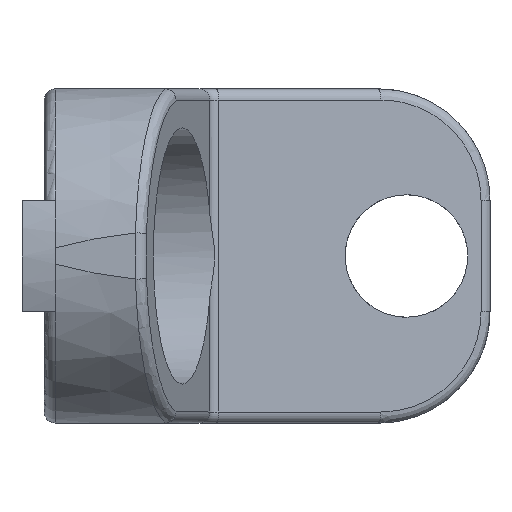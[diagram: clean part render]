
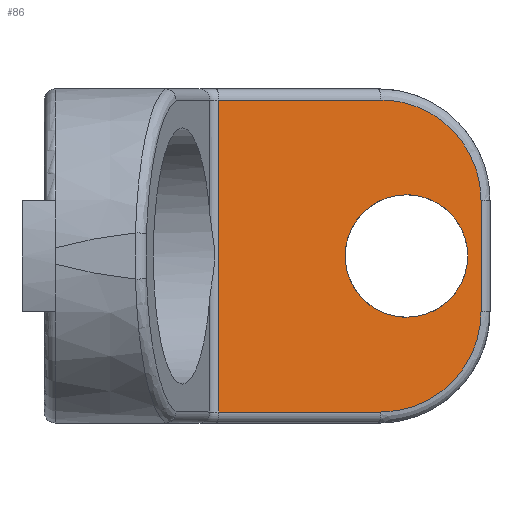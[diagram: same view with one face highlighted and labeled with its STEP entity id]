
A CAD part, left-side view. The second image highlights one B-rep face of the part: STEP entity #86.
In plain terms, the highlighted planar face has unit normal (-0.981, -0.196, 0).
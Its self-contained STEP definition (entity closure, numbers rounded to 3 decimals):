
#86 = ADVANCED_FACE ( 'NONE', ( #1760, #1009 ), #493, .F. ) ;
#102 = VECTOR ( 'NONE', #308, 1000. ) ;
#228 =( BOUNDED_CURVE ( )  B_SPLINE_CURVE ( 3, ( #2942, #1781, #367, #2006 ),
 .UNSPECIFIED., .F., .F. ) 
 B_SPLINE_CURVE_WITH_KNOTS ( ( 4, 4 ),
 ( 0., 3.142 ),
 .UNSPECIFIED. ) 
 CURVE ( )  GEOMETRIC_REPRESENTATION_ITEM ( )  RATIONAL_B_SPLINE_CURVE ( ( 1., 0.333, 0.333, 1. ) ) 
 REPRESENTATION_ITEM ( '' )  );
#248 = CARTESIAN_POINT ( 'NONE',  ( 26.627, -15.636, 0. ) ) ;
#254 = DIRECTION ( 'NONE',  ( -0.196, 0.981, 0. ) ) ;
#308 = DIRECTION ( 'NONE',  ( 0.196, -0.981, 0. ) ) ;
#356 = CARTESIAN_POINT ( 'NONE',  ( 31.5, -40., 29. ) ) ;
#367 = CARTESIAN_POINT ( 'NONE',  ( 28.9, -27., 4. ) ) ;
#394 = ORIENTED_EDGE ( 'NONE', *, *, #3014, .T. ) ;
#404 = VECTOR ( 'NONE', #2801, 1000. ) ;
#405 = VERTEX_POINT ( 'NONE', #580 ) ;
#429 = CARTESIAN_POINT ( 'NONE',  ( 26.627, -15.636, 29. ) ) ;
#461 = CARTESIAN_POINT ( 'NONE',  ( 31.339, -39.196, 20. ) ) ;
#492 = CARTESIAN_POINT ( 'NONE',  ( 28.9, -27., 15. ) ) ;
#493 = PLANE ( 'NONE',  #2682 ) ;
#580 = CARTESIAN_POINT ( 'NONE',  ( 31.1, -38., 15. ) ) ;
#587 = DIRECTION ( 'NONE',  ( -0.196, 0.981, 0. ) ) ;
#680 = CARTESIAN_POINT ( 'NONE',  ( 31.339, -39.196, 25.272 ) ) ;
#737 = CARTESIAN_POINT ( 'NONE',  ( 31.339, -39.196, 10. ) ) ;
#770 = EDGE_CURVE ( 'NONE', #1995, #405, #2556, .T. ) ;
#785 = VECTOR ( 'NONE', #1022, 1000. ) ;
#844 = CARTESIAN_POINT ( 'NONE',  ( 26.627, -15.636, 1. ) ) ;
#873 = EDGE_CURVE ( 'NONE', #1883, #2778, #1004, .T. ) ;
#1004 = LINE ( 'NONE', #2195, #785 ) ;
#1009 = FACE_BOUND ( 'NONE', #2863, .T. ) ;
#1022 = DIRECTION ( 'NONE',  ( 0., 0., 1. ) ) ;
#1062 = EDGE_LOOP ( 'NONE', ( #1979, #2875, #1271, #2297, #3023, #2715 ) ) ;
#1185 = CARTESIAN_POINT ( 'NONE',  ( 30.594, -35.468, 29. ) ) ;
#1271 = ORIENTED_EDGE ( 'NONE', *, *, #1335, .T. ) ;
#1335 = EDGE_CURVE ( 'NONE', #1864, #2977, #1869, .T. ) ;
#1425 = EDGE_CURVE ( 'NONE', #2778, #2692, #1917, .T. ) ;
#1480 = EDGE_CURVE ( 'NONE', #2720, #1883, #1638, .T. ) ;
#1538 = LINE ( 'NONE', #2891, #102 ) ;
#1623 = EDGE_CURVE ( 'NONE', #2977, #2720, #1538, .T. ) ;
#1638 =( BOUNDED_CURVE ( )  B_SPLINE_CURVE ( 3, ( #1664, #2137, #2160, #737 ),
 .UNSPECIFIED., .F., .T. ) 
 B_SPLINE_CURVE_WITH_KNOTS ( ( 4, 4 ),
 ( 1.571, 3.142 ),
 .UNSPECIFIED. ) 
 CURVE ( )  GEOMETRIC_REPRESENTATION_ITEM ( )  RATIONAL_B_SPLINE_CURVE ( ( 1., 0.805, 0.805, 1. ) ) 
 REPRESENTATION_ITEM ( '' )  );
#1664 = CARTESIAN_POINT ( 'NONE',  ( 29.539, -30.196, 1. ) ) ;
#1700 = CARTESIAN_POINT ( 'NONE',  ( 31.5, -40., 30. ) ) ;
#1727 = CARTESIAN_POINT ( 'NONE',  ( 31.339, -39.196, 20. ) ) ;
#1759 = CARTESIAN_POINT ( 'NONE',  ( 29.539, -30.196, 1. ) ) ;
#1760 = FACE_OUTER_BOUND ( 'NONE', #1062, .T. ) ;
#1773 = ORIENTED_EDGE ( 'NONE', *, *, #770, .T. ) ;
#1781 = CARTESIAN_POINT ( 'NONE',  ( 31.1, -38., 4. ) ) ;
#1864 = VERTEX_POINT ( 'NONE', #429 ) ;
#1869 = LINE ( 'NONE', #248, #404 ) ;
#1883 = VERTEX_POINT ( 'NONE', #2807 ) ;
#1917 =( BOUNDED_CURVE ( )  B_SPLINE_CURVE ( 3, ( #461, #680, #1185, #2812 ),
 .UNSPECIFIED., .F., .T. ) 
 B_SPLINE_CURVE_WITH_KNOTS ( ( 4, 4 ),
 ( 0., 1.571 ),
 .UNSPECIFIED. ) 
 CURVE ( )  GEOMETRIC_REPRESENTATION_ITEM ( )  RATIONAL_B_SPLINE_CURVE ( ( 1., 0.805, 0.805, 1. ) ) 
 REPRESENTATION_ITEM ( '' )  );
#1979 = ORIENTED_EDGE ( 'NONE', *, *, #1425, .T. ) ;
#1995 = VERTEX_POINT ( 'NONE', #2347 ) ;
#2006 = CARTESIAN_POINT ( 'NONE',  ( 28.9, -27., 15. ) ) ;
#2132 = CARTESIAN_POINT ( 'NONE',  ( 31.1, -38., 15. ) ) ;
#2133 = DIRECTION ( 'NONE',  ( 0.981, 0.196, 0. ) ) ;
#2137 = CARTESIAN_POINT ( 'NONE',  ( 30.594, -35.468, 1. ) ) ;
#2160 = CARTESIAN_POINT ( 'NONE',  ( 31.339, -39.196, 4.728 ) ) ;
#2195 = CARTESIAN_POINT ( 'NONE',  ( 31.339, -39.196, 30. ) ) ;
#2297 = ORIENTED_EDGE ( 'NONE', *, *, #1623, .T. ) ;
#2316 = EDGE_CURVE ( 'NONE', #2692, #1864, #2466, .T. ) ;
#2347 = CARTESIAN_POINT ( 'NONE',  ( 28.9, -27., 15. ) ) ;
#2368 = CARTESIAN_POINT ( 'NONE',  ( 31.1, -38., 26. ) ) ;
#2466 = LINE ( 'NONE', #356, #3026 ) ;
#2556 =( BOUNDED_CURVE ( )  B_SPLINE_CURVE ( 3, ( #492, #2831, #2368, #2132 ),
 .UNSPECIFIED., .F., .T. ) 
 B_SPLINE_CURVE_WITH_KNOTS ( ( 4, 4 ),
 ( 3.142, 6.283 ),
 .UNSPECIFIED. ) 
 CURVE ( )  GEOMETRIC_REPRESENTATION_ITEM ( )  RATIONAL_B_SPLINE_CURVE ( ( 1., 0.333, 0.333, 1. ) ) 
 REPRESENTATION_ITEM ( '' )  );
#2682 = AXIS2_PLACEMENT_3D ( 'NONE', #1700, #2133, #254 ) ;
#2689 = CARTESIAN_POINT ( 'NONE',  ( 29.539, -30.196, 29. ) ) ;
#2692 = VERTEX_POINT ( 'NONE', #2689 ) ;
#2715 = ORIENTED_EDGE ( 'NONE', *, *, #873, .T. ) ;
#2720 = VERTEX_POINT ( 'NONE', #1759 ) ;
#2778 = VERTEX_POINT ( 'NONE', #1727 ) ;
#2801 = DIRECTION ( 'NONE',  ( 0., 0., -1. ) ) ;
#2807 = CARTESIAN_POINT ( 'NONE',  ( 31.339, -39.196, 10. ) ) ;
#2812 = CARTESIAN_POINT ( 'NONE',  ( 29.539, -30.196, 29. ) ) ;
#2831 = CARTESIAN_POINT ( 'NONE',  ( 28.9, -27., 26. ) ) ;
#2863 = EDGE_LOOP ( 'NONE', ( #1773, #394 ) ) ;
#2875 = ORIENTED_EDGE ( 'NONE', *, *, #2316, .T. ) ;
#2891 = CARTESIAN_POINT ( 'NONE',  ( 29.5, -30., 1. ) ) ;
#2942 = CARTESIAN_POINT ( 'NONE',  ( 31.1, -38., 15. ) ) ;
#2977 = VERTEX_POINT ( 'NONE', #844 ) ;
#3014 = EDGE_CURVE ( 'NONE', #405, #1995, #228, .T. ) ;
#3023 = ORIENTED_EDGE ( 'NONE', *, *, #1480, .T. ) ;
#3026 = VECTOR ( 'NONE', #587, 1000. ) ;
